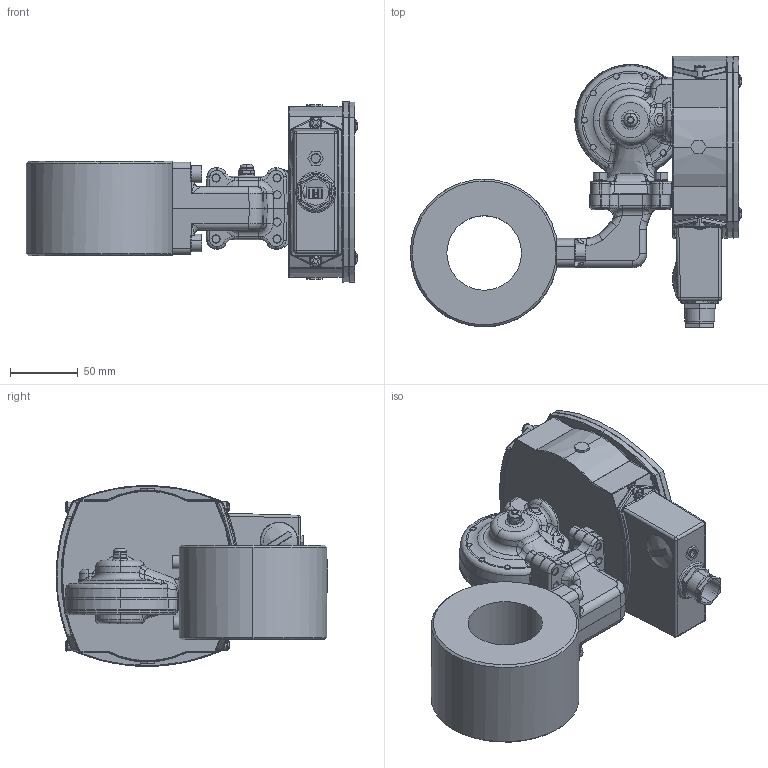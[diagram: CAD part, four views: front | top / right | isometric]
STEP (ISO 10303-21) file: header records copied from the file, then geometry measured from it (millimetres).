
FILE_DESCRIPTION (( 'STEP AP214' ), '1' );
FILE_NAME ('S FA50.STEP', '2016-09-21T07:10:30', ( 'User' ), ( 'HP' ), 'SwSTEP 2.0', 'SolidWorks 2016', '' );
FILE_SCHEMA (( 'AUTOMOTIVE_DESIGN' ));
Length unit declared in the file: millimetre
Products named in the file (35): ID_1_1_2; fj_X_E4derbricka till membranhus BR_1; ID_9; MC6S M6x22_1; ID_1_4_2; Lock kontrollerad HMAB ELETTA 20160908_1; ID_7_2; ID_6_1; Membranhus kontrollerad HMAB ELETTA 20160908_1; ID_5_2; ID_4_3; S2_25_internal_2_1; ID_3_3; kupolmutter_1; ID_2_4; m_X_E4ssingsmembran_1; ID_1_4; S hus; ID_1_4_8; S FA50; ID_14; ID_13; FA50 anslutningsror; ID_12; fa hals; ID_1_1; ID_2_2; ID_1_4_5; ID_1_2; ID_10; membranhus br; ID_1_4_4; M5 membranskruvar_1; ID_1_4_3; skruv_membranhus_1
Assembly tree (54 placements, depth 5):
  S FA50
    S hus
      ID_1_1
        ID_1_4
        ID_2_4
        ID_3_3
        ID_4_3
        ID_5_2
        ID_6_1  x4
        ID_7_2  x4
        ID_1_4_2
        ID_1_1_2
          ID_9  x2
        ID_1_4_3
        ID_1_4_4
        ID_10
        ID_1_4_5
      ID_12  x2
      ID_13
      ID_14
      ID_1_4_8
    membranhus br
      S2_25_internal_2_1
        m_X_E4ssingsmembran_1
        kupolmutter_1
      Membranhus kontrollerad HMAB ELETTA 20160908_1
      Lock kontrollerad HMAB ELETTA 20160908_1
      MC6S M6x22_1  x4
      M5 membranskruvar_1  x9
        fj_X_E4derbricka till membranhus BR_1
        skruv_membranhus_1
    fa hals
      ID_1_2
      ID_2_2  x2
    FA50 anslutningsror
Bounding box: 244.5 x 200.42 x 133.42 mm (x, y, z)
Volume: 975134.7 mm3; surface area: 298513.3 mm2
Topology: 56 solids, 56 shells, 2416 faces, 5937 edges, 3683 vertices
Faces by surface type: plane 862, cylinder 687, bspline 585, cone 208, torus 67, sphere 7
Entity records: 101076 total; most frequent: CARTESIAN_POINT 58774, ORIENTED_EDGE 9340, DIRECTION 7191, EDGE_CURVE 4670, VERTEX_POINT 2916, AXIS2_PLACEMENT_3D 2683, EDGE_LOOP 2108, ADVANCED_FACE 1893
